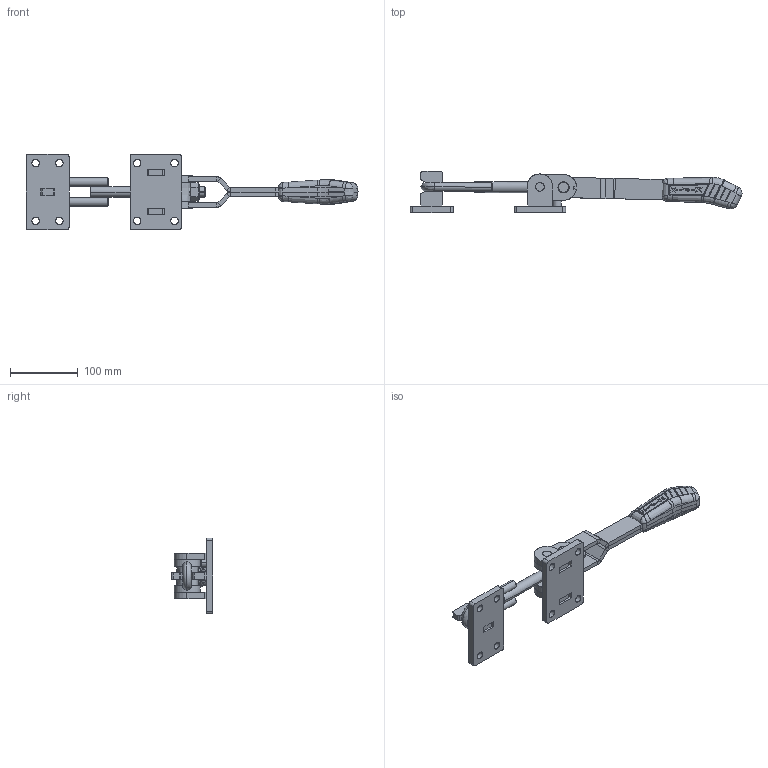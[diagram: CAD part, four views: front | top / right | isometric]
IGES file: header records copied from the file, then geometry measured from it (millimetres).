
Start section: SolidWorks IGES file using analytic representation for surfaces
Global section: file name: C:\Projetos\Grampos\KF-340\KF-340.IGS; native system: SolidWorks 2013; preprocessor: SolidWorks 2013; author: Ricardo; date: 140822.111717; units: millimetre
Bounding box: 490.15 x 61.02 x 112 mm (x, y, z)
Surface area: 148466.8 mm2 (no closed solid volume)
Topology: 0 solids, 0 shells, 709 faces, 7274 edges, 7255 vertices
Faces by surface type: bspline 419, revolution 290
